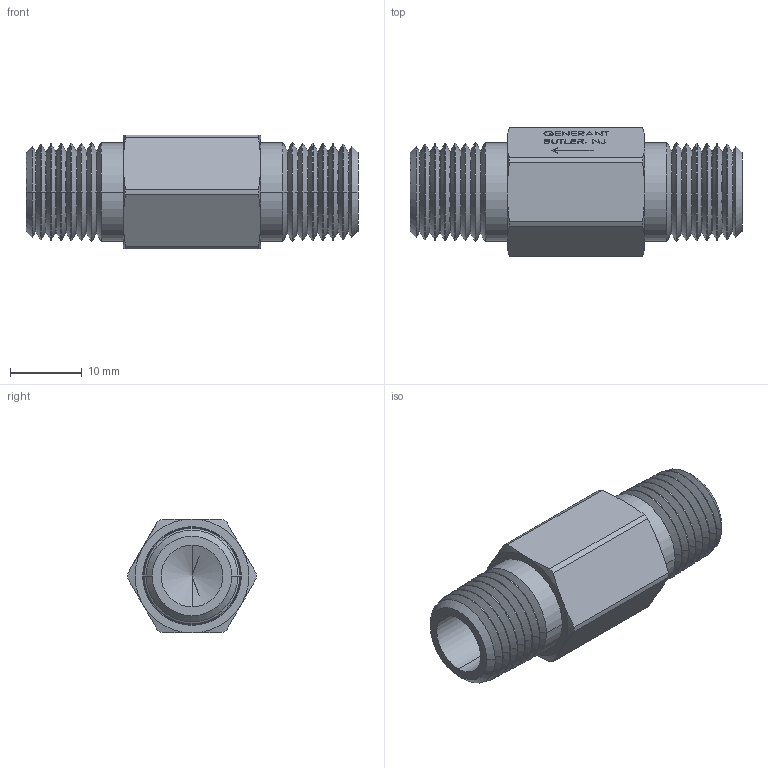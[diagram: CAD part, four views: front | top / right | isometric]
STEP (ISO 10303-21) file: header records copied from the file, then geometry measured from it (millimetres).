
FILE_DESCRIPTION (( 'STEP AP203' ), '1' );
FILE_NAME ('HPCV-4P.STEP', '2019-07-23T16:28:24', ( '' ), ( '' ), 'SwSTEP 2.0', 'SolidWorks 2011', '' );
FILE_SCHEMA (( 'CONFIG_CONTROL_DESIGN' ));
Length unit declared in the file: inch
Products named in the file (2): HPCV-4P; Part6^HPCV-4P
Assembly tree (1 placements, depth 2):
  HPCV-4P
    Part6^HPCV-4P
Bounding box: 46.3 x 17.91 x 15.88 mm (x, y, z)
Volume: 6404.7 mm3; surface area: 3768.2 mm2
Topology: 1 solids, 1 shells, 372 faces, 907 edges, 560 vertices
Faces by surface type: plane 190, cone 128, bspline 40, cylinder 14
Entity records: 13143 total; most frequent: CARTESIAN_POINT 4479, ORIENTED_EDGE 1806, DIRECTION 1623, EDGE_CURVE 903, VECTOR 647, LINE 647, VERTEX_POINT 560, AXIS2_PLACEMENT_3D 488
